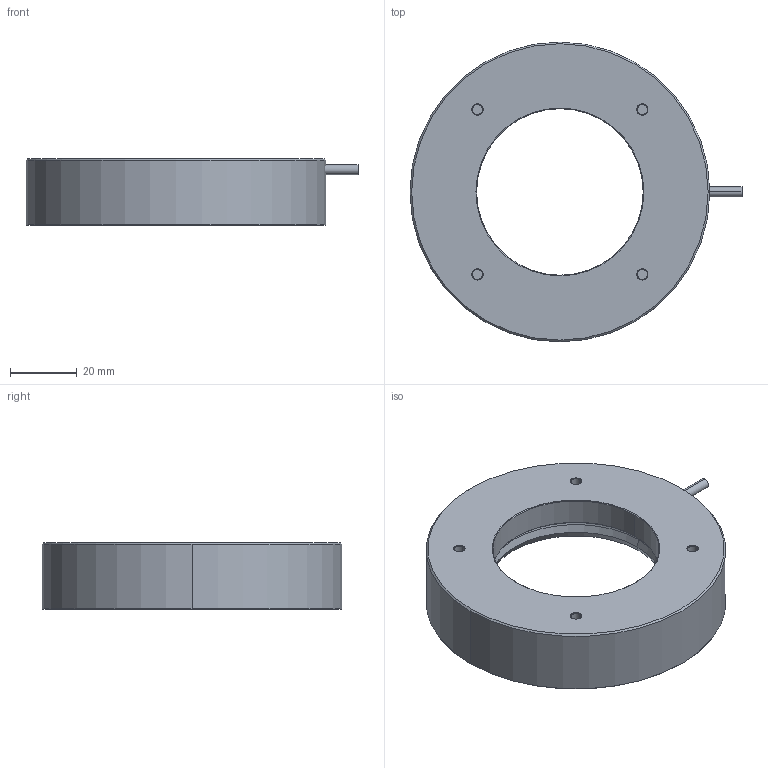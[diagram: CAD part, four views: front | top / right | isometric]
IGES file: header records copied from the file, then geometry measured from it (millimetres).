
Start section: 3D InterOp IGES (Version 24 0 1), Spatial Corp. Copyright (c) 1999-2007.
Global section: file name: VL-DR5090 3D.iges; native system: Spatial Corp.; preprocessor: 3D InterOp ACIS/IGES; author: Noname; organization: Noname; date: 20140129.105210; units: millimetre
Bounding box: 99.67 x 90 x 20 mm (x, y, z)
Surface area: 19180.5 mm2 (no closed solid volume)
Topology: 0 solids, 0 shells, 65 faces, 256 edges, 256 vertices
Faces by surface type: revolution 56, extrusion 9
